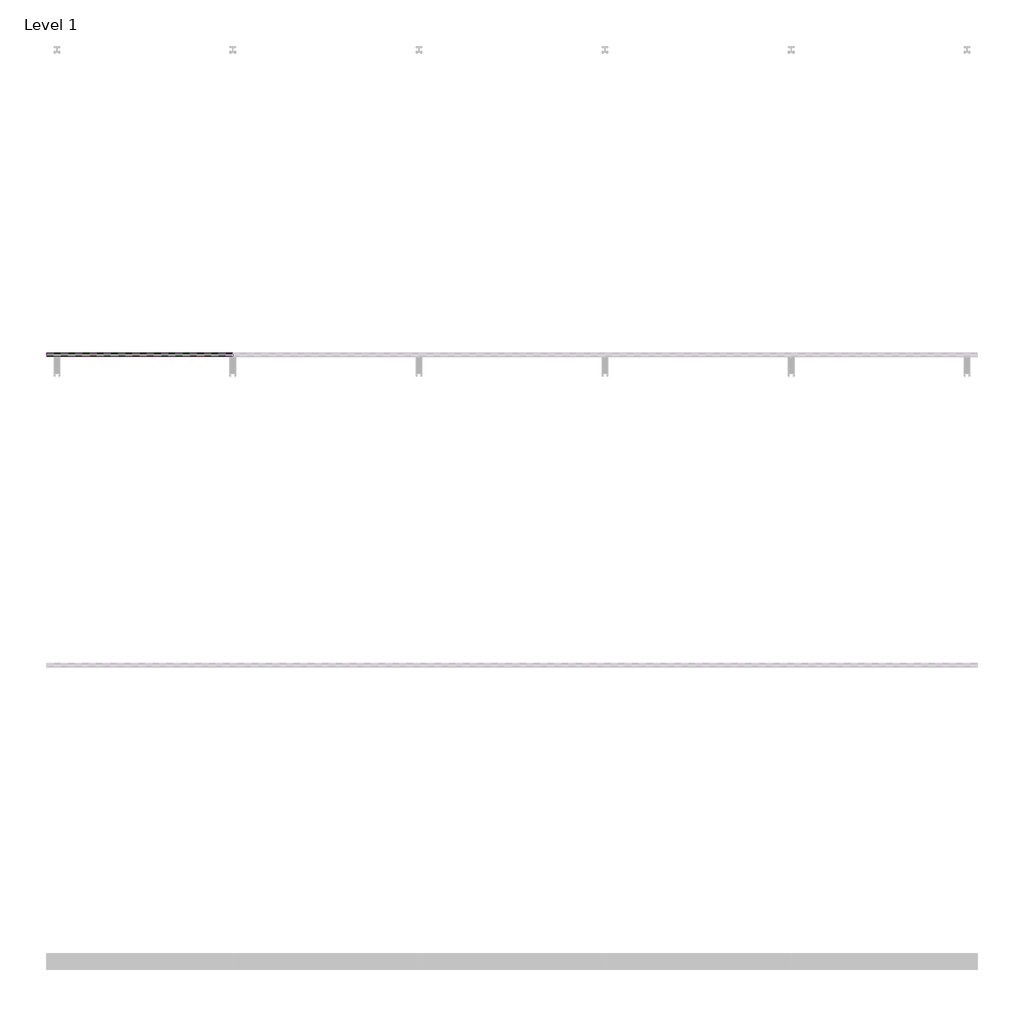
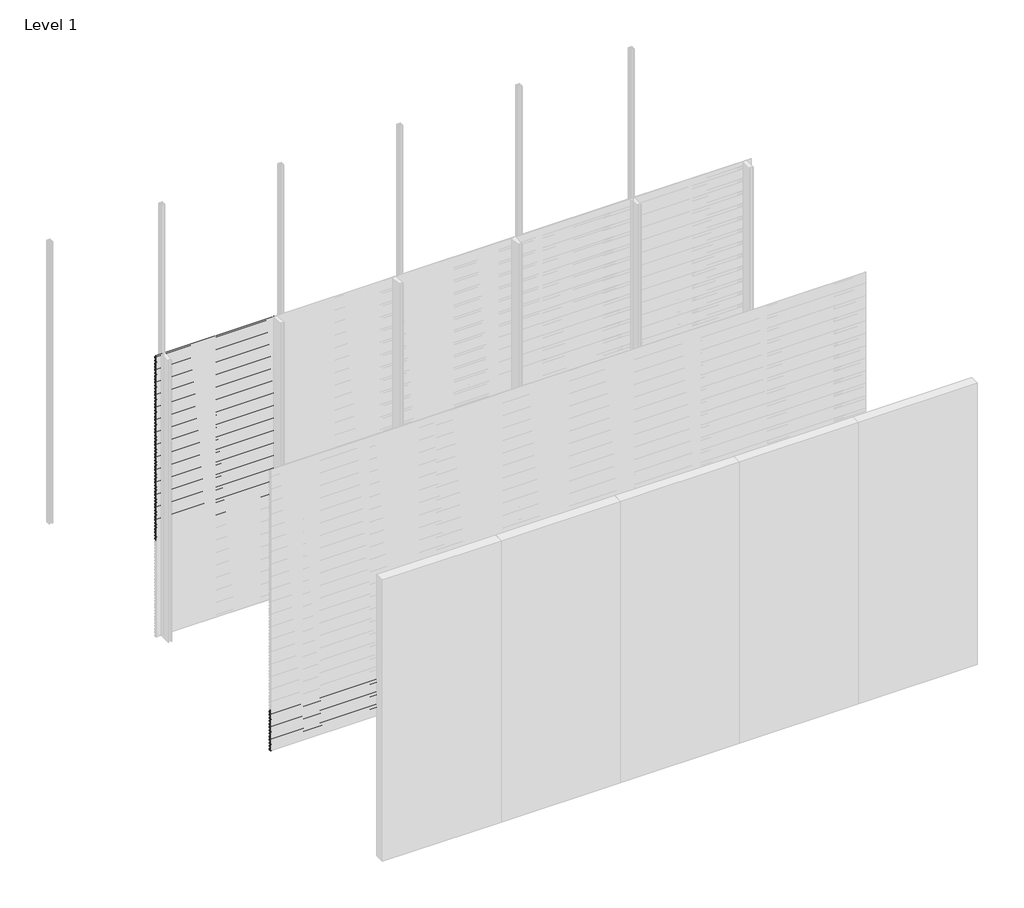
# One storey, part 12 of 77: 72 proxies.
"""IFC4 building model written with IfcOpenShell, lengths in millimetres."""

from ifc_helpers import new_model, si_unit, frame, origin, place, context, project, spatial, polyline, outline, extrude, element, save

model = new_model("IFC4")

# Units and contexts
model_context = context("Model", 3, world=origin())
ifc_project = project(units=[si_unit("LENGTHUNIT", "METRE", prefix="MILLI")], contexts=[model_context])

# Site, building, storey
site = spatial("IfcSite", under=ifc_project)
building = spatial("IfcBuilding", under=site)
storey = spatial("IfcBuildingStorey", under=building, Name="Level 1", Elevation=0.0)

# Proxies
placement = place(None, origin())
element("IfcBuildingElementProxy", 1, Name="Wall Sweeps", at=placement, inside=storey, context=model_context, shape_type="SweptSolid", body=[
    extrude(outline(polyline([(-47978.6, 2972.5359887), (-47998.0, 2983.7366691), (-47998.0, 2997.0), (-47997.0, 2997.0), (-47997.0, 2984.3191057), (-47977.6, 2973.1185105), (-47977.6, 2959.5185105), (-47978.6, 2961.0953129), (-47978.6, 2966.9032062), (-47995.9773817, 2958.8), (-47996.4, 2959.7063078), (-47978.6, 2968.0065841), (-47978.6, 2972.5359887)])), frame((0.0, 0.0, 0.0), z_axis=(1.0, 0.0, 0.0), x_axis=(0.0, 1.0, 0.0)), (0.0, 0.0, 1.0), 1200.0),
])
element("IfcBuildingElementProxy", 2, Name="Wall Sweeps", at=placement, inside=storey, context=model_context, shape_type="SweptSolid", body=[
    extrude(outline(polyline([(-47978.6, 2939.2359887), (-47998.0, 2950.4366691), (-47998.0, 2963.7), (-47997.0, 2963.7), (-47997.0, 2951.0191057), (-47977.6, 2939.8185105), (-47977.6, 2926.2185105), (-47978.6, 2927.7953129), (-47978.6, 2933.6032062), (-47995.9773817, 2925.5), (-47996.4, 2926.4063078), (-47978.6, 2934.7065841), (-47978.6, 2939.2359887)])), frame((0.0, 0.0, 0.0), z_axis=(1.0, 0.0, 0.0), x_axis=(0.0, 1.0, 0.0)), (0.0, 0.0, 1.0), 1200.0),
])
element("IfcBuildingElementProxy", 3, Name="Wall Sweeps", at=placement, inside=storey, context=model_context, shape_type="SweptSolid", body=[
    extrude(outline(polyline([(-47978.6, 2905.9359887), (-47998.0, 2917.1366691), (-47998.0, 2930.4), (-47997.0, 2930.4), (-47997.0, 2917.7191057), (-47977.6, 2906.5185105), (-47977.6, 2892.9185105), (-47978.6, 2894.4953129), (-47978.6, 2900.3032062), (-47995.9773817, 2892.2), (-47996.4, 2893.1063078), (-47978.6, 2901.4065841), (-47978.6, 2905.9359887)])), frame((0.0, 0.0, 0.0), z_axis=(1.0, 0.0, 0.0), x_axis=(0.0, 1.0, 0.0)), (0.0, 0.0, 1.0), 1200.0),
])
element("IfcBuildingElementProxy", 4, Name="Wall Sweeps", at=placement, inside=storey, context=model_context, shape_type="SweptSolid", body=[
    extrude(outline(polyline([(-47978.6, 2872.6359887), (-47998.0, 2883.8366691), (-47998.0, 2897.1), (-47997.0, 2897.1), (-47997.0, 2884.4191057), (-47977.6, 2873.2185105), (-47977.6, 2859.6185105), (-47978.6, 2861.1953129), (-47978.6, 2867.0032062), (-47995.9773817, 2858.9), (-47996.4, 2859.8063078), (-47978.6, 2868.1065841), (-47978.6, 2872.6359887)])), frame((0.0, 0.0, 0.0), z_axis=(1.0, 0.0, 0.0), x_axis=(0.0, 1.0, 0.0)), (0.0, 0.0, 1.0), 1200.0),
])
element("IfcBuildingElementProxy", 5, Name="Wall Sweeps", at=placement, inside=storey, context=model_context, shape_type="SweptSolid", body=[
    extrude(outline(polyline([(-47978.6, 2839.3359887), (-47998.0, 2850.5366691), (-47998.0, 2863.8), (-47997.0, 2863.8), (-47997.0, 2851.1191057), (-47977.6, 2839.9185105), (-47977.6, 2826.3185105), (-47978.6, 2827.8953129), (-47978.6, 2833.7032062), (-47995.9773817, 2825.6), (-47996.4, 2826.5063078), (-47978.6, 2834.8065841), (-47978.6, 2839.3359887)])), frame((0.0, 0.0, 0.0), z_axis=(1.0, 0.0, 0.0), x_axis=(0.0, 1.0, 0.0)), (0.0, 0.0, 1.0), 1200.0),
])
element("IfcBuildingElementProxy", 6, Name="Wall Sweeps", at=placement, inside=storey, context=model_context, shape_type="SweptSolid", body=[
    extrude(outline(polyline([(-47978.6, 2806.0359887), (-47998.0, 2817.2366691), (-47998.0, 2830.5), (-47997.0, 2830.5), (-47997.0, 2817.8191057), (-47977.6, 2806.6185105), (-47977.6, 2793.0185105), (-47978.6, 2794.5953129), (-47978.6, 2800.4032062), (-47995.9773817, 2792.3), (-47996.4, 2793.2063078), (-47978.6, 2801.5065841), (-47978.6, 2806.0359887)])), frame((0.0, 0.0, 0.0), z_axis=(1.0, 0.0, 0.0), x_axis=(0.0, 1.0, 0.0)), (0.0, 0.0, 1.0), 1200.0),
])
element("IfcBuildingElementProxy", 7, Name="Wall Sweeps", at=placement, inside=storey, context=model_context, shape_type="SweptSolid", body=[
    extrude(outline(polyline([(-47978.6, 2772.7359887), (-47998.0, 2783.9366691), (-47998.0, 2797.2), (-47997.0, 2797.2), (-47997.0, 2784.5191057), (-47977.6, 2773.3185105), (-47977.6, 2759.7185105), (-47978.6, 2761.2953129), (-47978.6, 2767.1032062), (-47995.9773817, 2759.0), (-47996.4, 2759.9063078), (-47978.6, 2768.2065841), (-47978.6, 2772.7359887)])), frame((0.0, 0.0, 0.0), z_axis=(1.0, 0.0, 0.0), x_axis=(0.0, 1.0, 0.0)), (0.0, 0.0, 1.0), 1200.0),
])
element("IfcBuildingElementProxy", 8, Name="Wall Sweeps", at=placement, inside=storey, context=model_context, shape_type="SweptSolid", body=[
    extrude(outline(polyline([(-47978.6, 2739.4359887), (-47998.0, 2750.6366691), (-47998.0, 2763.9), (-47997.0, 2763.9), (-47997.0, 2751.2191057), (-47977.6, 2740.0185105), (-47977.6, 2726.4185105), (-47978.6, 2727.9953129), (-47978.6, 2733.8032062), (-47995.9773817, 2725.7), (-47996.4, 2726.6063078), (-47978.6, 2734.9065841), (-47978.6, 2739.4359887)])), frame((0.0, 0.0, 0.0), z_axis=(1.0, 0.0, 0.0), x_axis=(0.0, 1.0, 0.0)), (0.0, 0.0, 1.0), 1200.0),
])
element("IfcBuildingElementProxy", 9, Name="Wall Sweeps", at=placement, inside=storey, context=model_context, shape_type="SweptSolid", body=[
    extrude(outline(polyline([(-47978.6, 2706.1359887), (-47998.0, 2717.3366691), (-47998.0, 2730.6), (-47997.0, 2730.6), (-47997.0, 2717.9191057), (-47977.6, 2706.7185105), (-47977.6, 2693.1185105), (-47978.6, 2694.6953129), (-47978.6, 2700.5032062), (-47995.9773817, 2692.4), (-47996.4, 2693.3063078), (-47978.6, 2701.6065841), (-47978.6, 2706.1359887)])), frame((0.0, 0.0, 0.0), z_axis=(1.0, 0.0, 0.0), x_axis=(0.0, 1.0, 0.0)), (0.0, 0.0, 1.0), 1200.0),
])
element("IfcBuildingElementProxy", 10, Name="Wall Sweeps", at=placement, inside=storey, context=model_context, shape_type="SweptSolid", body=[
    extrude(outline(polyline([(-47978.6, 2672.8359887), (-47998.0, 2684.0366691), (-47998.0, 2697.3), (-47997.0, 2697.3), (-47997.0, 2684.6191057), (-47977.6, 2673.4185105), (-47977.6, 2659.8185105), (-47978.6, 2661.3953129), (-47978.6, 2667.2032062), (-47995.9773817, 2659.1), (-47996.4, 2660.0063078), (-47978.6, 2668.3065841), (-47978.6, 2672.8359887)])), frame((0.0, 0.0, 0.0), z_axis=(1.0, 0.0, 0.0), x_axis=(0.0, 1.0, 0.0)), (0.0, 0.0, 1.0), 1200.0),
])
element("IfcBuildingElementProxy", 11, Name="Wall Sweeps", at=placement, inside=storey, context=model_context, shape_type="SweptSolid", body=[
    extrude(outline(polyline([(-47978.6, 2639.5359887), (-47998.0, 2650.7366691), (-47998.0, 2664.0), (-47997.0, 2664.0), (-47997.0, 2651.3191057), (-47977.6, 2640.1185105), (-47977.6, 2626.5185105), (-47978.6, 2628.0953129), (-47978.6, 2633.9032062), (-47995.9773817, 2625.8), (-47996.4, 2626.7063078), (-47978.6, 2635.0065841), (-47978.6, 2639.5359887)])), frame((0.0, 0.0, 0.0), z_axis=(1.0, 0.0, 0.0), x_axis=(0.0, 1.0, 0.0)), (0.0, 0.0, 1.0), 1200.0),
])
element("IfcBuildingElementProxy", 12, Name="Wall Sweeps", at=placement, inside=storey, context=model_context, shape_type="SweptSolid", body=[
    extrude(outline(polyline([(-47978.6, 2606.2359887), (-47998.0, 2617.4366691), (-47998.0, 2630.7), (-47997.0, 2630.7), (-47997.0, 2618.0191057), (-47977.6, 2606.8185105), (-47977.6, 2593.2185105), (-47978.6, 2594.7953129), (-47978.6, 2600.6032062), (-47995.9773817, 2592.5), (-47996.4, 2593.4063078), (-47978.6, 2601.7065841), (-47978.6, 2606.2359887)])), frame((0.0, 0.0, 0.0), z_axis=(1.0, 0.0, 0.0), x_axis=(0.0, 1.0, 0.0)), (0.0, 0.0, 1.0), 1200.0),
])
element("IfcBuildingElementProxy", 13, Name="Wall Sweeps", at=placement, inside=storey, context=model_context, shape_type="SweptSolid", body=[
    extrude(outline(polyline([(-47978.6, 2572.9359887), (-47998.0, 2584.1366691), (-47998.0, 2597.4), (-47997.0, 2597.4), (-47997.0, 2584.7191057), (-47977.6, 2573.5185105), (-47977.6, 2559.9185105), (-47978.6, 2561.4953129), (-47978.6, 2567.3032062), (-47995.9773817, 2559.2), (-47996.4, 2560.1063078), (-47978.6, 2568.4065841), (-47978.6, 2572.9359887)])), frame((0.0, 0.0, 0.0), z_axis=(1.0, 0.0, 0.0), x_axis=(0.0, 1.0, 0.0)), (0.0, 0.0, 1.0), 1200.0),
])
element("IfcBuildingElementProxy", 14, Name="Wall Sweeps", at=placement, inside=storey, context=model_context, shape_type="SweptSolid", body=[
    extrude(outline(polyline([(-47978.6, 2539.6359887), (-47998.0, 2550.8366691), (-47998.0, 2564.1), (-47997.0, 2564.1), (-47997.0, 2551.4191057), (-47977.6, 2540.2185105), (-47977.6, 2526.6185105), (-47978.6, 2528.1953129), (-47978.6, 2534.0032062), (-47995.9773817, 2525.9), (-47996.4, 2526.8063078), (-47978.6, 2535.1065841), (-47978.6, 2539.6359887)])), frame((0.0, 0.0, 0.0), z_axis=(1.0, 0.0, 0.0), x_axis=(0.0, 1.0, 0.0)), (0.0, 0.0, 1.0), 1200.0),
])
element("IfcBuildingElementProxy", 15, Name="Wall Sweeps", at=placement, inside=storey, context=model_context, shape_type="SweptSolid", body=[
    extrude(outline(polyline([(-47978.6, 2506.3359887), (-47998.0, 2517.5366691), (-47998.0, 2530.8), (-47997.0, 2530.8), (-47997.0, 2518.1191057), (-47977.6, 2506.9185105), (-47977.6, 2493.3185105), (-47978.6, 2494.8953129), (-47978.6, 2500.7032062), (-47995.9773817, 2492.6), (-47996.4, 2493.5063078), (-47978.6, 2501.8065841), (-47978.6, 2506.3359887)])), frame((0.0, 0.0, 0.0), z_axis=(1.0, 0.0, 0.0), x_axis=(0.0, 1.0, 0.0)), (0.0, 0.0, 1.0), 1200.0),
])
element("IfcBuildingElementProxy", 16, Name="Wall Sweeps", at=placement, inside=storey, context=model_context, shape_type="SweptSolid", body=[
    extrude(outline(polyline([(-47978.6, 2473.0359887), (-47998.0, 2484.2366691), (-47998.0, 2497.5), (-47997.0, 2497.5), (-47997.0, 2484.8191057), (-47977.6, 2473.6185105), (-47977.6, 2460.0185105), (-47978.6, 2461.5953129), (-47978.6, 2467.4032062), (-47995.9773817, 2459.3), (-47996.4, 2460.2063078), (-47978.6, 2468.5065841), (-47978.6, 2473.0359887)])), frame((0.0, 0.0, 0.0), z_axis=(1.0, 0.0, 0.0), x_axis=(0.0, 1.0, 0.0)), (0.0, 0.0, 1.0), 1200.0),
])
element("IfcBuildingElementProxy", 17, Name="Wall Sweeps", at=placement, inside=storey, context=model_context, shape_type="SweptSolid", body=[
    extrude(outline(polyline([(-47978.6, 2439.7359887), (-47998.0, 2450.9366691), (-47998.0, 2464.2), (-47997.0, 2464.2), (-47997.0, 2451.5191057), (-47977.6, 2440.3185105), (-47977.6, 2426.7185105), (-47978.6, 2428.2953129), (-47978.6, 2434.1032062), (-47995.9773817, 2426.0), (-47996.4, 2426.9063078), (-47978.6, 2435.2065841), (-47978.6, 2439.7359887)])), frame((0.0, 0.0, 0.0), z_axis=(1.0, 0.0, 0.0), x_axis=(0.0, 1.0, 0.0)), (0.0, 0.0, 1.0), 1200.0),
])
element("IfcBuildingElementProxy", 18, Name="Wall Sweeps", at=placement, inside=storey, context=model_context, shape_type="SweptSolid", body=[
    extrude(outline(polyline([(-47978.6, 2406.4359887), (-47998.0, 2417.6366691), (-47998.0, 2430.9), (-47997.0, 2430.9), (-47997.0, 2418.2191057), (-47977.6, 2407.0185105), (-47977.6, 2393.4185105), (-47978.6, 2394.9953129), (-47978.6, 2400.8032062), (-47995.9773817, 2392.7), (-47996.4, 2393.6063078), (-47978.6, 2401.9065841), (-47978.6, 2406.4359887)])), frame((0.0, 0.0, 0.0), z_axis=(1.0, 0.0, 0.0), x_axis=(0.0, 1.0, 0.0)), (0.0, 0.0, 1.0), 1200.0),
])
element("IfcBuildingElementProxy", 19, Name="Wall Sweeps", at=placement, inside=storey, context=model_context, shape_type="SweptSolid", body=[
    extrude(outline(polyline([(-47978.6, 2373.1359887), (-47998.0, 2384.3366691), (-47998.0, 2397.6), (-47997.0, 2397.6), (-47997.0, 2384.9191057), (-47977.6, 2373.7185105), (-47977.6, 2360.1185105), (-47978.6, 2361.6953129), (-47978.6, 2367.5032062), (-47995.9773817, 2359.4), (-47996.4, 2360.3063078), (-47978.6, 2368.6065841), (-47978.6, 2373.1359887)])), frame((0.0, 0.0, 0.0), z_axis=(1.0, 0.0, 0.0), x_axis=(0.0, 1.0, 0.0)), (0.0, 0.0, 1.0), 1200.0),
])
element("IfcBuildingElementProxy", 20, Name="Wall Sweeps", at=placement, inside=storey, context=model_context, shape_type="SweptSolid", body=[
    extrude(outline(polyline([(-47978.6, 2339.8359887), (-47998.0, 2351.0366691), (-47998.0, 2364.3), (-47997.0, 2364.3), (-47997.0, 2351.6191057), (-47977.6, 2340.4185105), (-47977.6, 2326.8185105), (-47978.6, 2328.3953129), (-47978.6, 2334.2032062), (-47995.9773817, 2326.1), (-47996.4, 2327.0063078), (-47978.6, 2335.3065841), (-47978.6, 2339.8359887)])), frame((0.0, 0.0, 0.0), z_axis=(1.0, 0.0, 0.0), x_axis=(0.0, 1.0, 0.0)), (0.0, 0.0, 1.0), 1200.0),
])
element("IfcBuildingElementProxy", 21, Name="Wall Sweeps", at=placement, inside=storey, context=model_context, shape_type="SweptSolid", body=[
    extrude(outline(polyline([(-47978.6, 2306.5359887), (-47998.0, 2317.7366691), (-47998.0, 2331.0), (-47997.0, 2331.0), (-47997.0, 2318.3191057), (-47977.6, 2307.1185105), (-47977.6, 2293.5185105), (-47978.6, 2295.0953129), (-47978.6, 2300.9032062), (-47995.9773817, 2292.8), (-47996.4, 2293.7063078), (-47978.6, 2302.0065841), (-47978.6, 2306.5359887)])), frame((0.0, 0.0, 0.0), z_axis=(1.0, 0.0, 0.0), x_axis=(0.0, 1.0, 0.0)), (0.0, 0.0, 1.0), 1200.0),
])
element("IfcBuildingElementProxy", 22, Name="Wall Sweeps", at=placement, inside=storey, context=model_context, shape_type="SweptSolid", body=[
    extrude(outline(polyline([(-47978.6, 2273.2359887), (-47998.0, 2284.4366691), (-47998.0, 2297.7), (-47997.0, 2297.7), (-47997.0, 2285.0191057), (-47977.6, 2273.8185105), (-47977.6, 2260.2185105), (-47978.6, 2261.7953129), (-47978.6, 2267.6032062), (-47995.9773817, 2259.5), (-47996.4, 2260.4063078), (-47978.6, 2268.7065841), (-47978.6, 2273.2359887)])), frame((0.0, 0.0, 0.0), z_axis=(1.0, 0.0, 0.0), x_axis=(0.0, 1.0, 0.0)), (0.0, 0.0, 1.0), 1200.0),
])
element("IfcBuildingElementProxy", 23, Name="Wall Sweeps", at=placement, inside=storey, context=model_context, shape_type="SweptSolid", body=[
    extrude(outline(polyline([(-47978.6, 2239.9359887), (-47998.0, 2251.1366691), (-47998.0, 2264.4), (-47997.0, 2264.4), (-47997.0, 2251.7191057), (-47977.6, 2240.5185105), (-47977.6, 2226.9185105), (-47978.6, 2228.4953129), (-47978.6, 2234.3032062), (-47995.9773817, 2226.2), (-47996.4, 2227.1063078), (-47978.6, 2235.4065841), (-47978.6, 2239.9359887)])), frame((0.0, 0.0, 0.0), z_axis=(1.0, 0.0, 0.0), x_axis=(0.0, 1.0, 0.0)), (0.0, 0.0, 1.0), 1200.0),
])
element("IfcBuildingElementProxy", 24, Name="Wall Sweeps", at=placement, inside=storey, context=model_context, shape_type="SweptSolid", body=[
    extrude(outline(polyline([(-47978.6, 2206.6359887), (-47998.0, 2217.8366691), (-47998.0, 2231.1), (-47997.0, 2231.1), (-47997.0, 2218.4191057), (-47977.6, 2207.2185105), (-47977.6, 2193.6185105), (-47978.6, 2195.1953129), (-47978.6, 2201.0032062), (-47995.9773817, 2192.9), (-47996.4, 2193.8063078), (-47978.6, 2202.1065841), (-47978.6, 2206.6359887)])), frame((0.0, 0.0, 0.0), z_axis=(1.0, 0.0, 0.0), x_axis=(0.0, 1.0, 0.0)), (0.0, 0.0, 1.0), 1200.0),
])
element("IfcBuildingElementProxy", 25, Name="Wall Sweeps", at=placement, inside=storey, context=model_context, shape_type="SweptSolid", body=[
    extrude(outline(polyline([(-47978.6, 2173.3359887), (-47998.0, 2184.5366691), (-47998.0, 2197.8), (-47997.0, 2197.8), (-47997.0, 2185.1191057), (-47977.6, 2173.9185105), (-47977.6, 2160.3185105), (-47978.6, 2161.8953129), (-47978.6, 2167.7032062), (-47995.9773817, 2159.6), (-47996.4, 2160.5063078), (-47978.6, 2168.8065841), (-47978.6, 2173.3359887)])), frame((0.0, 0.0, 0.0), z_axis=(1.0, 0.0, 0.0), x_axis=(0.0, 1.0, 0.0)), (0.0, 0.0, 1.0), 1200.0),
])
element("IfcBuildingElementProxy", 26, Name="Wall Sweeps", at=placement, inside=storey, context=model_context, shape_type="SweptSolid", body=[
    extrude(outline(polyline([(-47978.6, 2140.0359887), (-47998.0, 2151.2366691), (-47998.0, 2164.5), (-47997.0, 2164.5), (-47997.0, 2151.8191057), (-47977.6, 2140.6185105), (-47977.6, 2127.0185105), (-47978.6, 2128.5953129), (-47978.6, 2134.4032062), (-47995.9773817, 2126.3), (-47996.4, 2127.2063078), (-47978.6, 2135.5065841), (-47978.6, 2140.0359887)])), frame((0.0, 0.0, 0.0), z_axis=(1.0, 0.0, 0.0), x_axis=(0.0, 1.0, 0.0)), (0.0, 0.0, 1.0), 1200.0),
])
element("IfcBuildingElementProxy", 27, Name="Wall Sweeps", at=placement, inside=storey, context=model_context, shape_type="SweptSolid", body=[
    extrude(outline(polyline([(-47978.6, 2106.7359887), (-47998.0, 2117.9366691), (-47998.0, 2131.2), (-47997.0, 2131.2), (-47997.0, 2118.5191057), (-47977.6, 2107.3185105), (-47977.6, 2093.7185105), (-47978.6, 2095.2953129), (-47978.6, 2101.1032062), (-47995.9773817, 2093.0), (-47996.4, 2093.9063078), (-47978.6, 2102.2065841), (-47978.6, 2106.7359887)])), frame((0.0, 0.0, 0.0), z_axis=(1.0, 0.0, 0.0), x_axis=(0.0, 1.0, 0.0)), (0.0, 0.0, 1.0), 1200.0),
])
element("IfcBuildingElementProxy", 28, Name="Wall Sweeps", at=placement, inside=storey, context=model_context, shape_type="SweptSolid", body=[
    extrude(outline(polyline([(-47978.6, 2073.4359887), (-47998.0, 2084.6366691), (-47998.0, 2097.9), (-47997.0, 2097.9), (-47997.0, 2085.2191057), (-47977.6, 2074.0185105), (-47977.6, 2060.4185105), (-47978.6, 2061.9953129), (-47978.6, 2067.8032062), (-47995.9773817, 2059.7), (-47996.4, 2060.6063078), (-47978.6, 2068.9065841), (-47978.6, 2073.4359887)])), frame((0.0, 0.0, 0.0), z_axis=(1.0, 0.0, 0.0), x_axis=(0.0, 1.0, 0.0)), (0.0, 0.0, 1.0), 1200.0),
])
element("IfcBuildingElementProxy", 29, Name="Wall Sweeps", at=placement, inside=storey, context=model_context, shape_type="SweptSolid", body=[
    extrude(outline(polyline([(-47978.6, 2040.1359887), (-47998.0, 2051.3366691), (-47998.0, 2064.6), (-47997.0, 2064.6), (-47997.0, 2051.9191057), (-47977.6, 2040.7185105), (-47977.6, 2027.1185105), (-47978.6, 2028.6953129), (-47978.6, 2034.5032062), (-47995.9773817, 2026.4), (-47996.4, 2027.3063078), (-47978.6, 2035.6065841), (-47978.6, 2040.1359887)])), frame((0.0, 0.0, 0.0), z_axis=(1.0, 0.0, 0.0), x_axis=(0.0, 1.0, 0.0)), (0.0, 0.0, 1.0), 1200.0),
])
element("IfcBuildingElementProxy", 30, Name="Wall Sweeps", at=placement, inside=storey, context=model_context, shape_type="SweptSolid", body=[
    extrude(outline(polyline([(-47978.6, 2006.8359887), (-47998.0, 2018.0366691), (-47998.0, 2031.3), (-47997.0, 2031.3), (-47997.0, 2018.6191057), (-47977.6, 2007.4185105), (-47977.6, 1993.8185105), (-47978.6, 1995.3953129), (-47978.6, 2001.2032062), (-47995.9773817, 1993.1), (-47996.4, 1994.0063078), (-47978.6, 2002.3065841), (-47978.6, 2006.8359887)])), frame((0.0, 0.0, 0.0), z_axis=(1.0, 0.0, 0.0), x_axis=(0.0, 1.0, 0.0)), (0.0, 0.0, 1.0), 1200.0),
])
element("IfcBuildingElementProxy", 31, Name="Wall Sweeps", at=placement, inside=storey, context=model_context, shape_type="SweptSolid", body=[
    extrude(outline(polyline([(-47978.6, 1973.5359887), (-47998.0, 1984.7366691), (-47998.0, 1998.0), (-47997.0, 1998.0), (-47997.0, 1985.3191057), (-47977.6, 1974.1185105), (-47977.6, 1960.5185105), (-47978.6, 1962.0953129), (-47978.6, 1967.9032062), (-47995.9773817, 1959.8), (-47996.4, 1960.7063078), (-47978.6, 1969.0065841), (-47978.6, 1973.5359887)])), frame((0.0, 0.0, 0.0), z_axis=(1.0, 0.0, 0.0), x_axis=(0.0, 1.0, 0.0)), (0.0, 0.0, 1.0), 1200.0),
])
element("IfcBuildingElementProxy", 32, Name="Wall Sweeps", at=placement, inside=storey, context=model_context, shape_type="SweptSolid", body=[
    extrude(outline(polyline([(-47978.6, 1940.2359887), (-47998.0, 1951.4366691), (-47998.0, 1964.7), (-47997.0, 1964.7), (-47997.0, 1952.0191057), (-47977.6, 1940.8185105), (-47977.6, 1927.2185105), (-47978.6, 1928.7953129), (-47978.6, 1934.6032062), (-47995.9773817, 1926.5), (-47996.4, 1927.4063078), (-47978.6, 1935.7065841), (-47978.6, 1940.2359887)])), frame((0.0, 0.0, 0.0), z_axis=(1.0, 0.0, 0.0), x_axis=(0.0, 1.0, 0.0)), (0.0, 0.0, 1.0), 1200.0),
])
element("IfcBuildingElementProxy", 33, Name="Wall Sweeps", at=placement, inside=storey, context=model_context, shape_type="SweptSolid", body=[
    extrude(outline(polyline([(-47978.6, 1906.9359887), (-47998.0, 1918.1366691), (-47998.0, 1931.4), (-47997.0, 1931.4), (-47997.0, 1918.7191057), (-47977.6, 1907.5185105), (-47977.6, 1893.9185105), (-47978.6, 1895.4953129), (-47978.6, 1901.3032062), (-47995.9773817, 1893.2), (-47996.4, 1894.1063078), (-47978.6, 1902.4065841), (-47978.6, 1906.9359887)])), frame((0.0, 0.0, 0.0), z_axis=(1.0, 0.0, 0.0), x_axis=(0.0, 1.0, 0.0)), (0.0, 0.0, 1.0), 1200.0),
])
element("IfcBuildingElementProxy", 34, Name="Wall Sweeps", at=placement, inside=storey, context=model_context, shape_type="SweptSolid", body=[
    extrude(outline(polyline([(-47978.6, 1873.6359887), (-47998.0, 1884.8366691), (-47998.0, 1898.1), (-47997.0, 1898.1), (-47997.0, 1885.4191057), (-47977.6, 1874.2185105), (-47977.6, 1860.6185105), (-47978.6, 1862.1953129), (-47978.6, 1868.0032062), (-47995.9773817, 1859.9), (-47996.4, 1860.8063078), (-47978.6, 1869.1065841), (-47978.6, 1873.6359887)])), frame((0.0, 0.0, 0.0), z_axis=(1.0, 0.0, 0.0), x_axis=(0.0, 1.0, 0.0)), (0.0, 0.0, 1.0), 1200.0),
])
element("IfcBuildingElementProxy", 35, Name="Wall Sweeps", at=placement, inside=storey, context=model_context, shape_type="SweptSolid", body=[
    extrude(outline(polyline([(-47978.6, 1840.3359887), (-47998.0, 1851.5366691), (-47998.0, 1864.8), (-47997.0, 1864.8), (-47997.0, 1852.1191057), (-47977.6, 1840.9185105), (-47977.6, 1827.3185105), (-47978.6, 1828.8953129), (-47978.6, 1834.7032062), (-47995.9773817, 1826.6), (-47996.4, 1827.5063078), (-47978.6, 1835.8065841), (-47978.6, 1840.3359887)])), frame((0.0, 0.0, 0.0), z_axis=(1.0, 0.0, 0.0), x_axis=(0.0, 1.0, 0.0)), (0.0, 0.0, 1.0), 1200.0),
])
element("IfcBuildingElementProxy", 36, Name="Wall Sweeps", at=placement, inside=storey, context=model_context, shape_type="SweptSolid", body=[
    extrude(outline(polyline([(-47978.6, 1807.0359887), (-47998.0, 1818.2366691), (-47998.0, 1831.5), (-47997.0, 1831.5), (-47997.0, 1818.8191057), (-47977.6, 1807.6185105), (-47977.6, 1794.0185105), (-47978.6, 1795.5953129), (-47978.6, 1801.4032062), (-47995.9773817, 1793.3), (-47996.4, 1794.2063078), (-47978.6, 1802.5065841), (-47978.6, 1807.0359887)])), frame((0.0, 0.0, 0.0), z_axis=(1.0, 0.0, 0.0), x_axis=(0.0, 1.0, 0.0)), (0.0, 0.0, 1.0), 1200.0),
])
element("IfcBuildingElementProxy", 37, Name="Wall Sweeps", at=placement, inside=storey, context=model_context, shape_type="SweptSolid", body=[
    extrude(outline(polyline([(-47978.6, 1773.7359887), (-47998.0, 1784.9366691), (-47998.0, 1798.2), (-47997.0, 1798.2), (-47997.0, 1785.5191057), (-47977.6, 1774.3185105), (-47977.6, 1760.7185105), (-47978.6, 1762.2953129), (-47978.6, 1768.1032062), (-47995.9773817, 1760.0), (-47996.4, 1760.9063078), (-47978.6, 1769.2065841), (-47978.6, 1773.7359887)])), frame((0.0, 0.0, 0.0), z_axis=(1.0, 0.0, 0.0), x_axis=(0.0, 1.0, 0.0)), (0.0, 0.0, 1.0), 1200.0),
])
element("IfcBuildingElementProxy", 38, Name="Wall Sweeps", at=placement, inside=storey, context=model_context, shape_type="SweptSolid", body=[
    extrude(outline(polyline([(-47978.6, 1740.4359887), (-47998.0, 1751.6366691), (-47998.0, 1764.9), (-47997.0, 1764.9), (-47997.0, 1752.2191057), (-47977.6, 1741.0185105), (-47977.6, 1727.4185105), (-47978.6, 1728.9953129), (-47978.6, 1734.8032062), (-47995.9773817, 1726.7), (-47996.4, 1727.6063078), (-47978.6, 1735.9065841), (-47978.6, 1740.4359887)])), frame((0.0, 0.0, 0.0), z_axis=(1.0, 0.0, 0.0), x_axis=(0.0, 1.0, 0.0)), (0.0, 0.0, 1.0), 1200.0),
])
element("IfcBuildingElementProxy", 39, Name="Wall Sweeps", at=placement, inside=storey, context=model_context, shape_type="SweptSolid", body=[
    extrude(outline(polyline([(-47978.6, 1707.1359887), (-47998.0, 1718.3366691), (-47998.0, 1731.6), (-47997.0, 1731.6), (-47997.0, 1718.9191057), (-47977.6, 1707.7185105), (-47977.6, 1694.1185105), (-47978.6, 1695.6953129), (-47978.6, 1701.5032062), (-47995.9773817, 1693.4), (-47996.4, 1694.3063078), (-47978.6, 1702.6065841), (-47978.6, 1707.1359887)])), frame((0.0, 0.0, 0.0), z_axis=(1.0, 0.0, 0.0), x_axis=(0.0, 1.0, 0.0)), (0.0, 0.0, 1.0), 1200.0),
])
element("IfcBuildingElementProxy", 40, Name="Wall Sweeps", at=placement, inside=storey, context=model_context, shape_type="SweptSolid", body=[
    extrude(outline(polyline([(-47978.6, 1673.8359887), (-47998.0, 1685.0366691), (-47998.0, 1698.3), (-47997.0, 1698.3), (-47997.0, 1685.6191057), (-47977.6, 1674.4185105), (-47977.6, 1660.8185105), (-47978.6, 1662.3953129), (-47978.6, 1668.2032062), (-47995.9773817, 1660.1), (-47996.4, 1661.0063078), (-47978.6, 1669.3065841), (-47978.6, 1673.8359887)])), frame((0.0, 0.0, 0.0), z_axis=(1.0, 0.0, 0.0), x_axis=(0.0, 1.0, 0.0)), (0.0, 0.0, 1.0), 1200.0),
])
element("IfcBuildingElementProxy", 41, Name="Wall Sweeps", at=placement, inside=storey, context=model_context, shape_type="SweptSolid", body=[
    extrude(outline(polyline([(-47978.6, 1640.5359887), (-47998.0, 1651.7366691), (-47998.0, 1665.0), (-47997.0, 1665.0), (-47997.0, 1652.3191057), (-47977.6, 1641.1185105), (-47977.6, 1627.5185105), (-47978.6, 1629.0953129), (-47978.6, 1634.9032062), (-47995.9773817, 1626.8), (-47996.4, 1627.7063078), (-47978.6, 1636.0065841), (-47978.6, 1640.5359887)])), frame((0.0, 0.0, 0.0), z_axis=(1.0, 0.0, 0.0), x_axis=(0.0, 1.0, 0.0)), (0.0, 0.0, 1.0), 1200.0),
])
element("IfcBuildingElementProxy", 42, Name="Wall Sweeps", at=placement, inside=storey, context=model_context, shape_type="SweptSolid", body=[
    extrude(outline(polyline([(-47978.6, 1607.2359887), (-47998.0, 1618.4366691), (-47998.0, 1631.7), (-47997.0, 1631.7), (-47997.0, 1619.0191057), (-47977.6, 1607.8185105), (-47977.6, 1594.2185105), (-47978.6, 1595.7953129), (-47978.6, 1601.6032062), (-47995.9773817, 1593.5), (-47996.4, 1594.4063078), (-47978.6, 1602.7065841), (-47978.6, 1607.2359887)])), frame((0.0, 0.0, 0.0), z_axis=(1.0, 0.0, 0.0), x_axis=(0.0, 1.0, 0.0)), (0.0, 0.0, 1.0), 1200.0),
])
element("IfcBuildingElementProxy", 43, Name="Wall Sweeps", at=placement, inside=storey, context=model_context, shape_type="SweptSolid", body=[
    extrude(outline(polyline([(-47978.6, 1573.9359887), (-47998.0, 1585.1366691), (-47998.0, 1598.4), (-47997.0, 1598.4), (-47997.0, 1585.7191057), (-47977.6, 1574.5185105), (-47977.6, 1560.9185105), (-47978.6, 1562.4953129), (-47978.6, 1568.3032062), (-47995.9773817, 1560.2), (-47996.4, 1561.1063078), (-47978.6, 1569.4065841), (-47978.6, 1573.9359887)])), frame((0.0, 0.0, 0.0), z_axis=(1.0, 0.0, 0.0), x_axis=(0.0, 1.0, 0.0)), (0.0, 0.0, 1.0), 1200.0),
])
element("IfcBuildingElementProxy", 44, Name="Wall Sweeps", at=placement, inside=storey, context=model_context, shape_type="SweptSolid", body=[
    extrude(outline(polyline([(-47978.6, 1540.6359887), (-47998.0, 1551.8366691), (-47998.0, 1565.1), (-47997.0, 1565.1), (-47997.0, 1552.4191057), (-47977.6, 1541.2185105), (-47977.6, 1527.6185105), (-47978.6, 1529.1953129), (-47978.6, 1535.0032062), (-47995.9773817, 1526.9), (-47996.4, 1527.8063078), (-47978.6, 1536.1065841), (-47978.6, 1540.6359887)])), frame((0.0, 0.0, 0.0), z_axis=(1.0, 0.0, 0.0), x_axis=(0.0, 1.0, 0.0)), (0.0, 0.0, 1.0), 1200.0),
])
element("IfcBuildingElementProxy", 45, Name="Wall Sweeps", at=placement, inside=storey, context=model_context, shape_type="SweptSolid", body=[
    extrude(outline(polyline([(-47978.6, 1507.3359887), (-47998.0, 1518.5366691), (-47998.0, 1531.8), (-47997.0, 1531.8), (-47997.0, 1519.1191057), (-47977.6, 1507.9185105), (-47977.6, 1494.3185105), (-47978.6, 1495.8953129), (-47978.6, 1501.7032062), (-47995.9773817, 1493.6), (-47996.4, 1494.5063078), (-47978.6, 1502.8065841), (-47978.6, 1507.3359887)])), frame((0.0, 0.0, 0.0), z_axis=(1.0, 0.0, 0.0), x_axis=(0.0, 1.0, 0.0)), (0.0, 0.0, 1.0), 1200.0),
])
element("IfcBuildingElementProxy", 46, Name="Wall Sweeps", at=placement, inside=storey, context=model_context, shape_type="SweptSolid", body=[
    extrude(outline(polyline([(-47978.6, 1474.0359887), (-47998.0, 1485.2366691), (-47998.0, 1498.5), (-47997.0, 1498.5), (-47997.0, 1485.8191057), (-47977.6, 1474.6185105), (-47977.6, 1461.0185105), (-47978.6, 1462.5953129), (-47978.6, 1468.4032062), (-47995.9773817, 1460.3), (-47996.4, 1461.2063078), (-47978.6, 1469.5065841), (-47978.6, 1474.0359887)])), frame((0.0, 0.0, 0.0), z_axis=(1.0, 0.0, 0.0), x_axis=(0.0, 1.0, 0.0)), (0.0, 0.0, 1.0), 1200.0),
])
element("IfcBuildingElementProxy", 47, Name="Wall Sweeps", at=placement, inside=storey, context=model_context, shape_type="SweptSolid", body=[
    extrude(outline(polyline([(-47978.6, 1440.7359887), (-47998.0, 1451.9366691), (-47998.0, 1465.2), (-47997.0, 1465.2), (-47997.0, 1452.5191057), (-47977.6, 1441.3185105), (-47977.6, 1427.7185105), (-47978.6, 1429.2953129), (-47978.6, 1435.1032062), (-47995.9773817, 1427.0), (-47996.4, 1427.9063078), (-47978.6, 1436.2065841), (-47978.6, 1440.7359887)])), frame((0.0, 0.0, 0.0), z_axis=(1.0, 0.0, 0.0), x_axis=(0.0, 1.0, 0.0)), (0.0, 0.0, 1.0), 1200.0),
])
element("IfcBuildingElementProxy", 48, Name="Wall Sweeps", at=placement, inside=storey, context=model_context, shape_type="SweptSolid", body=[
    extrude(outline(polyline([(-47978.6, 1407.4359887), (-47998.0, 1418.6366691), (-47998.0, 1431.9), (-47997.0, 1431.9), (-47997.0, 1419.2191057), (-47977.6, 1408.0185105), (-47977.6, 1394.4185105), (-47978.6, 1395.9953129), (-47978.6, 1401.8032062), (-47995.9773817, 1393.7), (-47996.4, 1394.6063078), (-47978.6, 1402.9065841), (-47978.6, 1407.4359887)])), frame((0.0, 0.0, 0.0), z_axis=(1.0, 0.0, 0.0), x_axis=(0.0, 1.0, 0.0)), (0.0, 0.0, 1.0), 1200.0),
])
element("IfcBuildingElementProxy", 49, Name="Wall Sweeps", at=placement, inside=storey, context=model_context, shape_type="SweptSolid", body=[
    extrude(outline(polyline([(-47978.6, 1374.1359887), (-47998.0, 1385.3366691), (-47998.0, 1398.6), (-47997.0, 1398.6), (-47997.0, 1385.9191057), (-47977.6, 1374.7185105), (-47977.6, 1361.1185105), (-47978.6, 1362.6953129), (-47978.6, 1368.5032062), (-47995.9773817, 1360.4), (-47996.4, 1361.3063078), (-47978.6, 1369.6065841), (-47978.6, 1374.1359887)])), frame((0.0, 0.0, 0.0), z_axis=(1.0, 0.0, 0.0), x_axis=(0.0, 1.0, 0.0)), (0.0, 0.0, 1.0), 1200.0),
])
element("IfcBuildingElementProxy", 50, Name="Wall Sweeps", at=placement, inside=storey, context=model_context, shape_type="SweptSolid", body=[
    extrude(outline(polyline([(-47978.6, 1340.8359887), (-47998.0, 1352.0366691), (-47998.0, 1365.3), (-47997.0, 1365.3), (-47997.0, 1352.6191057), (-47977.6, 1341.4185105), (-47977.6, 1327.8185105), (-47978.6, 1329.3953129), (-47978.6, 1335.2032062), (-47995.9773817, 1327.1), (-47996.4, 1328.0063078), (-47978.6, 1336.3065841), (-47978.6, 1340.8359887)])), frame((0.0, 0.0, 0.0), z_axis=(1.0, 0.0, 0.0), x_axis=(0.0, 1.0, 0.0)), (0.0, 0.0, 1.0), 1200.0),
])
element("IfcBuildingElementProxy", 51, Name="Wall Sweeps", at=placement, inside=storey, context=model_context, shape_type="SweptSolid", body=[
    extrude(outline(polyline([(-47978.6, 1307.5359887), (-47998.0, 1318.7366691), (-47998.0, 1332.0), (-47997.0, 1332.0), (-47997.0, 1319.3191057), (-47977.6, 1308.1185105), (-47977.6, 1294.5185105), (-47978.6, 1296.0953129), (-47978.6, 1301.9032062), (-47995.9773817, 1293.8), (-47996.4, 1294.7063078), (-47978.6, 1303.0065841), (-47978.6, 1307.5359887)])), frame((0.0, 0.0, 0.0), z_axis=(1.0, 0.0, 0.0), x_axis=(0.0, 1.0, 0.0)), (0.0, 0.0, 1.0), 1200.0),
])
element("IfcBuildingElementProxy", 52, Name="Wall Sweeps", at=placement, inside=storey, context=model_context, shape_type="SweptSolid", body=[
    extrude(outline(polyline([(-47978.6, 1274.2359887), (-47998.0, 1285.4366691), (-47998.0, 1298.7), (-47997.0, 1298.7), (-47997.0, 1286.0191057), (-47977.6, 1274.8185105), (-47977.6, 1261.2185105), (-47978.6, 1262.7953129), (-47978.6, 1268.6032062), (-47995.9773817, 1260.5), (-47996.4, 1261.4063078), (-47978.6, 1269.7065841), (-47978.6, 1274.2359887)])), frame((0.0, 0.0, 0.0), z_axis=(1.0, 0.0, 0.0), x_axis=(0.0, 1.0, 0.0)), (0.0, 0.0, 1.0), 1200.0),
])
element("IfcBuildingElementProxy", 53, Name="Wall Sweeps", at=placement, inside=storey, context=model_context, shape_type="SweptSolid", body=[
    extrude(outline(polyline([(-47978.6, 1240.9359887), (-47998.0, 1252.1366691), (-47998.0, 1265.4), (-47997.0, 1265.4), (-47997.0, 1252.7191057), (-47977.6, 1241.5185105), (-47977.6, 1227.9185105), (-47978.6, 1229.4953129), (-47978.6, 1235.3032062), (-47995.9773817, 1227.2), (-47996.4, 1228.1063078), (-47978.6, 1236.4065841), (-47978.6, 1240.9359887)])), frame((0.0, 0.0, 0.0), z_axis=(1.0, 0.0, 0.0), x_axis=(0.0, 1.0, 0.0)), (0.0, 0.0, 1.0), 1200.0),
])
element("IfcBuildingElementProxy", 54, Name="Wall Sweeps", at=placement, inside=storey, context=model_context, shape_type="SweptSolid", body=[
    extrude(outline(polyline([(-47978.6, 1207.6359887), (-47998.0, 1218.8366691), (-47998.0, 1232.1), (-47997.0, 1232.1), (-47997.0, 1219.4191057), (-47977.6, 1208.2185105), (-47977.6, 1194.6185105), (-47978.6, 1196.1953129), (-47978.6, 1202.0032062), (-47995.9773817, 1193.9), (-47996.4, 1194.8063078), (-47978.6, 1203.1065841), (-47978.6, 1207.6359887)])), frame((0.0, 0.0, 0.0), z_axis=(1.0, 0.0, 0.0), x_axis=(0.0, 1.0, 0.0)), (0.0, 0.0, 1.0), 1200.0),
])
element("IfcBuildingElementProxy", 55, Name="Wall Sweeps", at=placement, inside=storey, context=model_context, shape_type="SweptSolid", body=[
    extrude(outline(polyline([(-47978.6, 1174.3359887), (-47998.0, 1185.5366691), (-47998.0, 1198.8), (-47997.0, 1198.8), (-47997.0, 1186.1191057), (-47977.6, 1174.9185105), (-47977.6, 1161.3185105), (-47978.6, 1162.8953129), (-47978.6, 1168.7032062), (-47995.9773817, 1160.6), (-47996.4, 1161.5063078), (-47978.6, 1169.8065841), (-47978.6, 1174.3359887)])), frame((0.0, 0.0, 0.0), z_axis=(1.0, 0.0, 0.0), x_axis=(0.0, 1.0, 0.0)), (0.0, 0.0, 1.0), 1200.0),
])
element("IfcBuildingElementProxy", 56, Name="Wall Sweeps", at=placement, inside=storey, context=model_context, shape_type="SweptSolid", body=[
    extrude(outline(polyline([(-47978.6, 1141.0359887), (-47998.0, 1152.2366691), (-47998.0, 1165.5), (-47997.0, 1165.5), (-47997.0, 1152.8191057), (-47977.6, 1141.6185105), (-47977.6, 1128.0185105), (-47978.6, 1129.5953129), (-47978.6, 1135.4032062), (-47995.9773817, 1127.3), (-47996.4, 1128.2063078), (-47978.6, 1136.5065841), (-47978.6, 1141.0359887)])), frame((0.0, 0.0, 0.0), z_axis=(1.0, 0.0, 0.0), x_axis=(0.0, 1.0, 0.0)), (0.0, 0.0, 1.0), 1200.0),
])
element("IfcBuildingElementProxy", 57, Name="Wall Sweeps", at=placement, inside=storey, context=model_context, shape_type="SweptSolid", body=[
    extrude(outline(polyline([(-47978.6, 1107.7359887), (-47998.0, 1118.9366691), (-47998.0, 1132.2), (-47997.0, 1132.2), (-47997.0, 1119.5191057), (-47977.6, 1108.3185105), (-47977.6, 1094.7185105), (-47978.6, 1096.2953129), (-47978.6, 1102.1032062), (-47995.9773817, 1094.0), (-47996.4, 1094.9063078), (-47978.6, 1103.2065841), (-47978.6, 1107.7359887)])), frame((0.0, 0.0, 0.0), z_axis=(1.0, 0.0, 0.0), x_axis=(0.0, 1.0, 0.0)), (0.0, 0.0, 1.0), 1200.0),
])
element("IfcBuildingElementProxy", 58, Name="Wall Sweeps", at=placement, inside=storey, context=model_context, shape_type="SweptSolid", body=[
    extrude(outline(polyline([(-47978.6, 1074.4359887), (-47998.0, 1085.6366691), (-47998.0, 1098.9), (-47997.0, 1098.9), (-47997.0, 1086.2191057), (-47977.6, 1075.0185105), (-47977.6, 1061.4185105), (-47978.6, 1062.9953129), (-47978.6, 1068.8032062), (-47995.9773817, 1060.7), (-47996.4, 1061.6063078), (-47978.6, 1069.9065841), (-47978.6, 1074.4359887)])), frame((0.0, 0.0, 0.0), z_axis=(1.0, 0.0, 0.0), x_axis=(0.0, 1.0, 0.0)), (0.0, 0.0, 1.0), 1200.0),
])
element("IfcBuildingElementProxy", 59, Name="Wall Sweeps", at=placement, inside=storey, context=model_context, shape_type="SweptSolid", body=[
    extrude(outline(polyline([(-47978.6, 1041.1359887), (-47998.0, 1052.3366691), (-47998.0, 1065.6), (-47997.0, 1065.6), (-47997.0, 1052.9191057), (-47977.6, 1041.7185105), (-47977.6, 1028.1185105), (-47978.6, 1029.6953129), (-47978.6, 1035.5032062), (-47995.9773817, 1027.4), (-47996.4, 1028.3063078), (-47978.6, 1036.6065841), (-47978.6, 1041.1359887)])), frame((0.0, 0.0, 0.0), z_axis=(1.0, 0.0, 0.0), x_axis=(0.0, 1.0, 0.0)), (0.0, 0.0, 1.0), 1200.0),
])
element("IfcBuildingElementProxy", 60, Name="Wall Sweeps", at=placement, inside=storey, context=model_context, shape_type="SweptSolid", body=[
    extrude(outline(polyline([(-49978.6, 408.4359887), (-49998.0, 419.6366691), (-49998.0, 432.9), (-49997.0, 432.9), (-49997.0, 420.2191057), (-49977.6, 409.0185105), (-49977.6, 395.4185105), (-49978.6, 396.9953129), (-49978.6, 402.8032062), (-49995.9773817, 394.7), (-49996.4, 395.6063078), (-49978.6, 403.9065841), (-49978.6, 408.4359887)])), frame((0.0, 0.0, 0.0), z_axis=(1.0, 0.0, 0.0), x_axis=(0.0, 1.0, 0.0)), (0.0, 0.0, 1.0), 6000.0),
])
element("IfcBuildingElementProxy", 61, Name="Wall Sweeps", at=placement, inside=storey, context=model_context, shape_type="SweptSolid", body=[
    extrude(outline(polyline([(-49978.6, 375.1359887), (-49998.0, 386.3366691), (-49998.0, 399.6), (-49997.0, 399.6), (-49997.0, 386.9191057), (-49977.6, 375.7185105), (-49977.6, 362.1185105), (-49978.6, 363.6953129), (-49978.6, 369.5032062), (-49995.9773817, 361.4), (-49996.4, 362.3063078), (-49978.6, 370.6065841), (-49978.6, 375.1359887)])), frame((0.0, 0.0, 0.0), z_axis=(1.0, 0.0, 0.0), x_axis=(0.0, 1.0, 0.0)), (0.0, 0.0, 1.0), 6000.0),
])
element("IfcBuildingElementProxy", 62, Name="Wall Sweeps", at=placement, inside=storey, context=model_context, shape_type="SweptSolid", body=[
    extrude(outline(polyline([(-49978.6, 341.8359887), (-49998.0, 353.0366691), (-49998.0, 366.3), (-49997.0, 366.3), (-49997.0, 353.6191057), (-49977.6, 342.4185105), (-49977.6, 328.8185105), (-49978.6, 330.3953129), (-49978.6, 336.2032062), (-49995.9773817, 328.1), (-49996.4, 329.0063078), (-49978.6, 337.3065841), (-49978.6, 341.8359887)])), frame((0.0, 0.0, 0.0), z_axis=(1.0, 0.0, 0.0), x_axis=(0.0, 1.0, 0.0)), (0.0, 0.0, 1.0), 6000.0),
])
element("IfcBuildingElementProxy", 63, Name="Wall Sweeps", at=placement, inside=storey, context=model_context, shape_type="SweptSolid", body=[
    extrude(outline(polyline([(-49978.6, 308.5359887), (-49998.0, 319.7366691), (-49998.0, 333.0), (-49997.0, 333.0), (-49997.0, 320.3191057), (-49977.6, 309.1185105), (-49977.6, 295.5185105), (-49978.6, 297.0953129), (-49978.6, 302.9032062), (-49995.9773817, 294.8), (-49996.4, 295.7063078), (-49978.6, 304.0065841), (-49978.6, 308.5359887)])), frame((0.0, 0.0, 0.0), z_axis=(1.0, 0.0, 0.0), x_axis=(0.0, 1.0, 0.0)), (0.0, 0.0, 1.0), 6000.0),
])
element("IfcBuildingElementProxy", 64, Name="Wall Sweeps", at=placement, inside=storey, context=model_context, shape_type="SweptSolid", body=[
    extrude(outline(polyline([(-49978.6, 275.2359887), (-49998.0, 286.4366691), (-49998.0, 299.7), (-49997.0, 299.7), (-49997.0, 287.0191057), (-49977.6, 275.8185105), (-49977.6, 262.2185105), (-49978.6, 263.7953129), (-49978.6, 269.6032062), (-49995.9773817, 261.5), (-49996.4, 262.4063078), (-49978.6, 270.7065841), (-49978.6, 275.2359887)])), frame((0.0, 0.0, 0.0), z_axis=(1.0, 0.0, 0.0), x_axis=(0.0, 1.0, 0.0)), (0.0, 0.0, 1.0), 6000.0),
])
element("IfcBuildingElementProxy", 65, Name="Wall Sweeps", at=placement, inside=storey, context=model_context, shape_type="SweptSolid", body=[
    extrude(outline(polyline([(-49978.6, 241.9359887), (-49998.0, 253.1366691), (-49998.0, 266.4), (-49997.0, 266.4), (-49997.0, 253.7191057), (-49977.6, 242.5185105), (-49977.6, 228.9185105), (-49978.6, 230.4953129), (-49978.6, 236.3032062), (-49995.9773817, 228.2), (-49996.4, 229.1063078), (-49978.6, 237.4065841), (-49978.6, 241.9359887)])), frame((0.0, 0.0, 0.0), z_axis=(1.0, 0.0, 0.0), x_axis=(0.0, 1.0, 0.0)), (0.0, 0.0, 1.0), 6000.0),
])
element("IfcBuildingElementProxy", 66, Name="Wall Sweeps", at=placement, inside=storey, context=model_context, shape_type="SweptSolid", body=[
    extrude(outline(polyline([(-49978.6, 208.6359887), (-49998.0, 219.8366691), (-49998.0, 233.1), (-49997.0, 233.1), (-49997.0, 220.4191057), (-49977.6, 209.2185105), (-49977.6, 195.6185105), (-49978.6, 197.1953129), (-49978.6, 203.0032062), (-49995.9773817, 194.9), (-49996.4, 195.8063078), (-49978.6, 204.1065841), (-49978.6, 208.6359887)])), frame((0.0, 0.0, 0.0), z_axis=(1.0, 0.0, 0.0), x_axis=(0.0, 1.0, 0.0)), (0.0, 0.0, 1.0), 6000.0),
])
element("IfcBuildingElementProxy", 67, Name="Wall Sweeps", at=placement, inside=storey, context=model_context, shape_type="SweptSolid", body=[
    extrude(outline(polyline([(-49978.6, 175.3359887), (-49998.0, 186.5366691), (-49998.0, 199.8), (-49997.0, 199.8), (-49997.0, 187.1191057), (-49977.6, 175.9185105), (-49977.6, 162.3185105), (-49978.6, 163.8953129), (-49978.6, 169.7032062), (-49995.9773817, 161.6), (-49996.4, 162.5063078), (-49978.6, 170.8065841), (-49978.6, 175.3359887)])), frame((0.0, 0.0, 0.0), z_axis=(1.0, 0.0, 0.0), x_axis=(0.0, 1.0, 0.0)), (0.0, 0.0, 1.0), 6000.0),
])
element("IfcBuildingElementProxy", 68, Name="Wall Sweeps", at=placement, inside=storey, context=model_context, shape_type="SweptSolid", body=[
    extrude(outline(polyline([(-49978.6, 142.0359887), (-49998.0, 153.2366691), (-49998.0, 166.5), (-49997.0, 166.5), (-49997.0, 153.8191057), (-49977.6, 142.6185105), (-49977.6, 129.0185105), (-49978.6, 130.5953129), (-49978.6, 136.4032062), (-49995.9773817, 128.3), (-49996.4, 129.2063078), (-49978.6, 137.5065841), (-49978.6, 142.0359887)])), frame((0.0, 0.0, 0.0), z_axis=(1.0, 0.0, 0.0), x_axis=(0.0, 1.0, 0.0)), (0.0, 0.0, 1.0), 6000.0),
])
element("IfcBuildingElementProxy", 69, Name="Wall Sweeps", at=placement, inside=storey, context=model_context, shape_type="SweptSolid", body=[
    extrude(outline(polyline([(-49978.6, 108.7359887), (-49998.0, 119.9366691), (-49998.0, 133.2), (-49997.0, 133.2), (-49997.0, 120.5191057), (-49977.6, 109.3185105), (-49977.6, 95.7185105), (-49978.6, 97.2953129), (-49978.6, 103.1032062), (-49995.9773817, 95.0), (-49996.4, 95.9063078), (-49978.6, 104.2065841), (-49978.6, 108.7359887)])), frame((0.0, 0.0, 0.0), z_axis=(1.0, 0.0, 0.0), x_axis=(0.0, 1.0, 0.0)), (0.0, 0.0, 1.0), 6000.0),
])
element("IfcBuildingElementProxy", 70, Name="Wall Sweeps", at=placement, inside=storey, context=model_context, shape_type="SweptSolid", body=[
    extrude(outline(polyline([(-49978.6, 75.4359887), (-49998.0, 86.6366691), (-49998.0, 99.9), (-49997.0, 99.9), (-49997.0, 87.2191057), (-49977.6, 76.0185105), (-49977.6, 62.4185105), (-49978.6, 63.9953129), (-49978.6, 69.8032062), (-49995.9773817, 61.7), (-49996.4, 62.6063078), (-49978.6, 70.9065841), (-49978.6, 75.4359887)])), frame((0.0, 0.0, 0.0), z_axis=(1.0, 0.0, 0.0), x_axis=(0.0, 1.0, 0.0)), (0.0, 0.0, 1.0), 6000.0),
])
element("IfcBuildingElementProxy", 71, Name="Wall Sweeps", at=placement, inside=storey, context=model_context, shape_type="SweptSolid", body=[
    extrude(outline(polyline([(-49978.6, 42.1359887), (-49998.0, 53.3366691), (-49998.0, 66.6), (-49997.0, 66.6), (-49997.0, 53.9191057), (-49977.6, 42.7185105), (-49977.6, 29.1185105), (-49978.6, 30.6953129), (-49978.6, 36.5032062), (-49995.9773817, 28.4), (-49996.4, 29.3063078), (-49978.6, 37.6065841), (-49978.6, 42.1359887)])), frame((0.0, 0.0, 0.0), z_axis=(1.0, 0.0, 0.0), x_axis=(0.0, 1.0, 0.0)), (0.0, 0.0, 1.0), 6000.0),
])
element("IfcBuildingElementProxy", 72, Name="Wall Sweeps", at=placement, inside=storey, context=model_context, shape_type="SweptSolid", body=[
    extrude(outline(polyline([(-49978.6, 8.8359887), (-49998.0, 20.0366691), (-49998.0, 33.3), (-49997.0, 33.3), (-49997.0, 20.6191057), (-49977.6, 9.4185105), (-49977.6, -4.1814895), (-49978.6, -2.6046871), (-49978.6, 3.2032062), (-49995.9773817, -4.9), (-49996.4, -3.9936922), (-49978.6, 4.3065841), (-49978.6, 8.8359887)])), frame((0.0, 0.0, 0.0), z_axis=(1.0, 0.0, 0.0), x_axis=(0.0, 1.0, 0.0)), (0.0, 0.0, 1.0), 6000.0),
])

save(model, "model.ifc")
